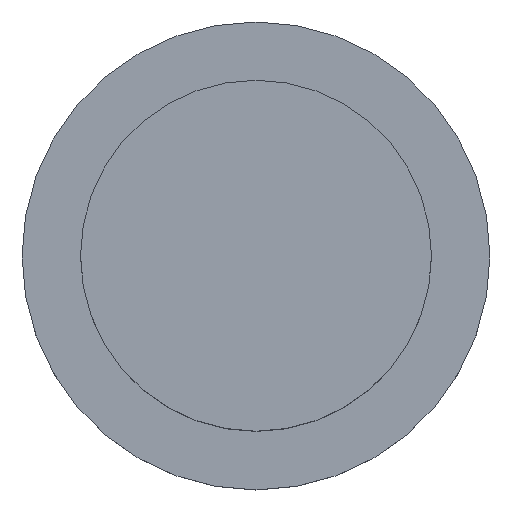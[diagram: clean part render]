
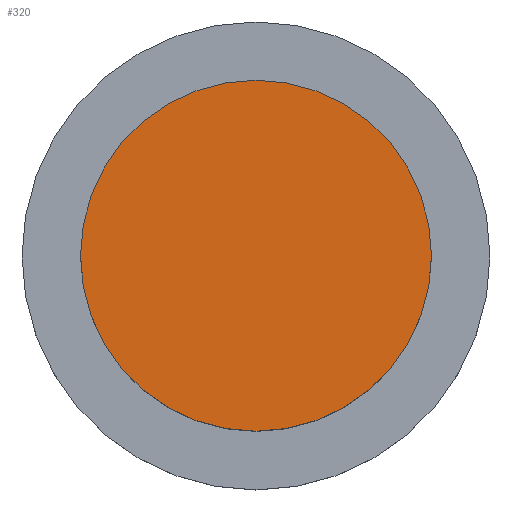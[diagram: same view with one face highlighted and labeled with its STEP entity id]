
A CAD part, top view. The second image highlights one B-rep face of the part: STEP entity #320.
In plain terms, the highlighted planar face has unit normal (0, 0, 1).
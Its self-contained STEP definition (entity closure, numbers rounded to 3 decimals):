
#164 = CYLINDRICAL_SURFACE('',#165,7.5);
#165 = AXIS2_PLACEMENT_3D('',#166,#167,#168);
#166 = CARTESIAN_POINT('',(0.,0.,18.));
#167 = DIRECTION('',(-0.,-0.,-1.));
#168 = DIRECTION('',(1.,0.,0.));
#235 = VERTEX_POINT('',#236);
#236 = CARTESIAN_POINT('',(7.5,0.,24.));
#257 = EDGE_CURVE('',#235,#235,#258,.T.);
#258 = SURFACE_CURVE('',#259,(#264,#271),.PCURVE_S1.);
#259 = CIRCLE('',#260,7.5);
#260 = AXIS2_PLACEMENT_3D('',#261,#262,#263);
#261 = CARTESIAN_POINT('',(0.,0.,24.));
#262 = DIRECTION('',(0.,0.,1.));
#263 = DIRECTION('',(1.,0.,0.));
#264 = PCURVE('',#164,#265);
#265 = DEFINITIONAL_REPRESENTATION('',(#266),#270);
#266 = LINE('',#267,#268);
#267 = CARTESIAN_POINT('',(-0.,-6.));
#268 = VECTOR('',#269,1.);
#269 = DIRECTION('',(-1.,0.));
#270 = ( GEOMETRIC_REPRESENTATION_CONTEXT(2) 
PARAMETRIC_REPRESENTATION_CONTEXT() REPRESENTATION_CONTEXT('2D SPACE',''
  ) );
#271 = PCURVE('',#272,#277);
#272 = PLANE('',#273);
#273 = AXIS2_PLACEMENT_3D('',#274,#275,#276);
#274 = CARTESIAN_POINT('',(0.,0.,24.));
#275 = DIRECTION('',(0.,0.,1.));
#276 = DIRECTION('',(1.,0.,-0.));
#277 = DEFINITIONAL_REPRESENTATION('',(#278),#282);
#278 = CIRCLE('',#279,7.5);
#279 = AXIS2_PLACEMENT_2D('',#280,#281);
#280 = CARTESIAN_POINT('',(0.,0.));
#281 = DIRECTION('',(1.,0.));
#282 = ( GEOMETRIC_REPRESENTATION_CONTEXT(2) 
PARAMETRIC_REPRESENTATION_CONTEXT() REPRESENTATION_CONTEXT('2D SPACE',''
  ) );
#320 = ADVANCED_FACE('',(#321),#272,.T.);
#321 = FACE_BOUND('',#322,.T.);
#322 = EDGE_LOOP('',(#323));
#323 = ORIENTED_EDGE('',*,*,#257,.T.);
